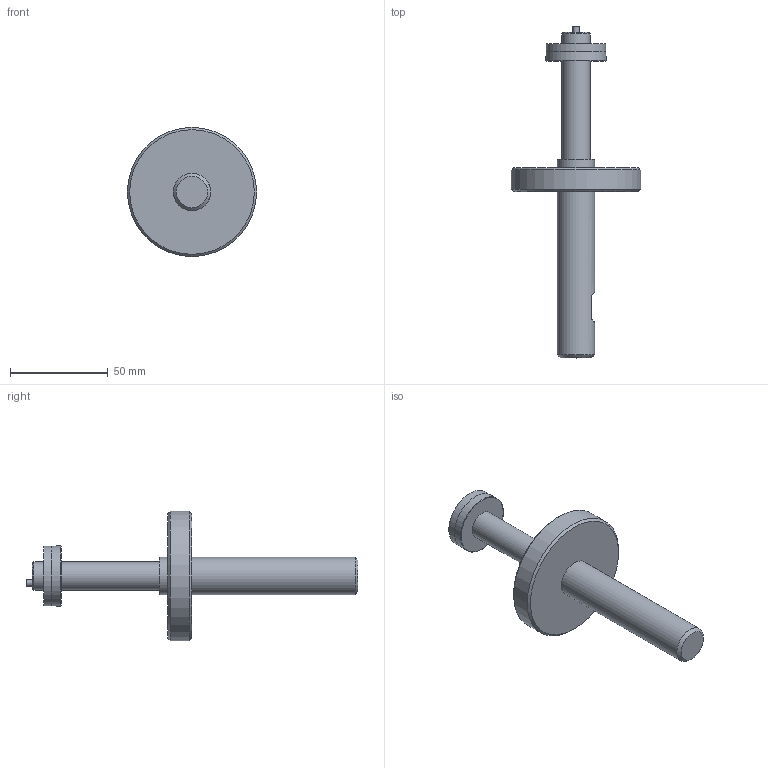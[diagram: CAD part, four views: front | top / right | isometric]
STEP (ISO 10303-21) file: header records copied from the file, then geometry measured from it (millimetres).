
FILE_DESCRIPTION (( 'STEP AP203' ), '1' );
FILE_NAME ('AF56-SIMPLE - AF56-14.50-31.00M.step', '2025-01-22T13:31:40', ( '' ), ( '' ), 'SwSTEP 2.0', 'SolidWorks 2024', '' );
FILE_SCHEMA (( 'CONFIG_CONTROL_DESIGN' ));
Length unit declared in the file: inch
Products named in the file (1): AF56-SIMPLE - AF56-14.50-31.00M
Bounding box: 66.04 x 169.8 x 66.04 mm (x, y, z)
Volume: 82412.7 mm3; surface area: 18948.4 mm2
Topology: 1 solids, 1 shells, 24 faces, 40 edges, 25 vertices
Faces by surface type: plane 11, cylinder 7, cone 5, torus 1
Full cylindrical faces by diameter (mm): 3.175 x1, 14.376 x2, 19.05 x2, 30.494 x1, 66.04 x1
Entity records: 569 total; most frequent: DIRECTION 94, CARTESIAN_POINT 81, ORIENTED_EDGE 52, AXIS2_PLACEMENT_3D 45, EDGE_LOOP 44, FACE_OUTER_BOUND 32, EDGE_CURVE 26, VERTEX_POINT 24
